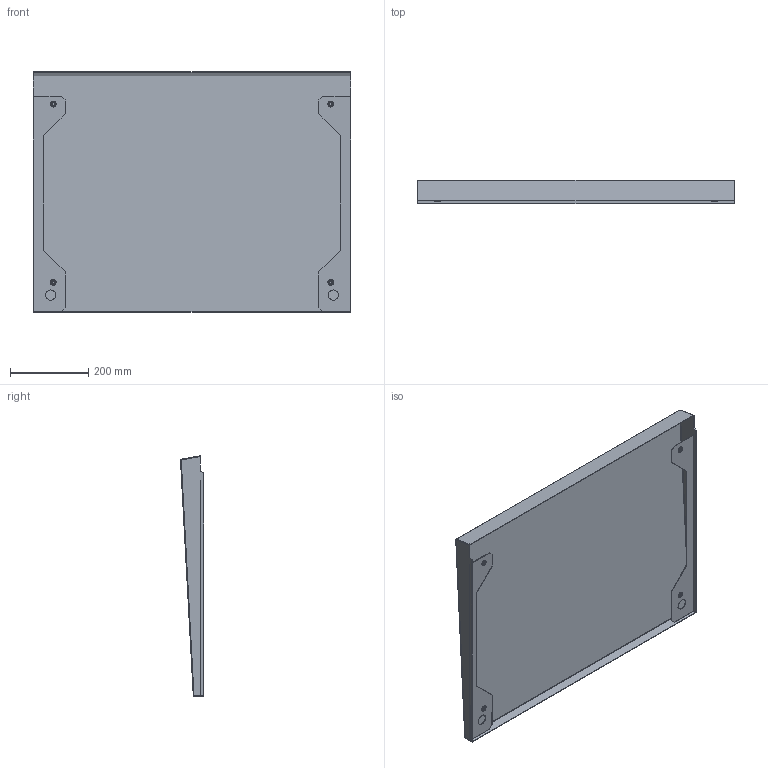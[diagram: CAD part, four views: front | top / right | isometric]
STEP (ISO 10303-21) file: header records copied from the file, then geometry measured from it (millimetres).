
FILE_DESCRIPTION (( 'STEP AP203' ), '1' );
FILE_NAME ('R 80.60 Cﾁ ﾊ鰀靍裲 鈞隆.STEP', '2012-11-21T04:26:29', ( 'system' ), ( '' ), 'SwSTEP 2.0', 'SolidWorks 2012', '' );
FILE_SCHEMA (( 'CONFIG_CONTROL_DESIGN' ));
Length unit declared in the file: millimetre
Products named in the file (1): R 80.60 Cﾁ ﾊ鰀靍裲 鈞隆
Bounding box: 810 x 58.97 x 613.57 mm (x, y, z)
Volume: 909420.3 mm3; surface area: 1304693.4 mm2
Topology: 5 solids, 5 shells, 152 faces, 354 edges, 224 vertices
Faces by surface type: cylinder 60, plane 60, torus 16, cone 8, sphere 8
Entity records: 4419 total; most frequent: DIRECTION 824, CARTESIAN_POINT 731, ORIENTED_EDGE 692, EDGE_CURVE 346, AXIS2_PLACEMENT_3D 329, VERTEX_POINT 220, EDGE_LOOP 188, CIRCLE 176
